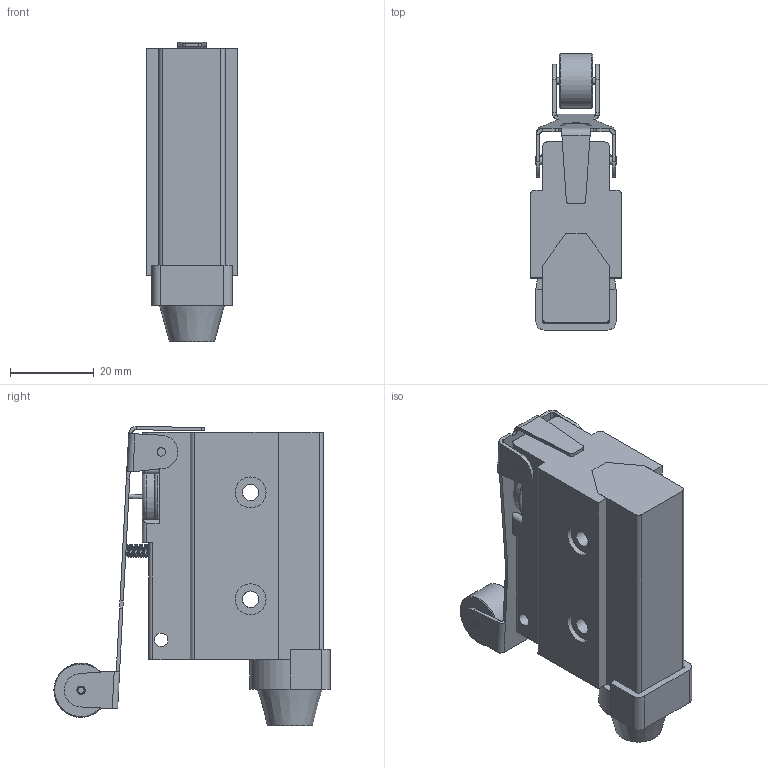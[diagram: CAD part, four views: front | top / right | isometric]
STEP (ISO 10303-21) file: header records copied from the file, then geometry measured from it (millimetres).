
FILE_DESCRIPTION (( 'STEP AP214' ), '1' );
FILE_NAME ('3D 斁麧錪 MTB4-MS7126.STEP', '2020-07-01T14:28:25', ( '' ), ( '' ), 'SwSTEP 2.0', 'SolidWorks 2015', '' );
FILE_SCHEMA (( 'AUTOMOTIVE_DESIGN' ));
Length unit declared in the file: millimetre
Products named in the file (8): 膰薧槻鴀 MTB4-MS7126; Øàéáà_ïîäêëàäî÷íàÿ_00; ñêîáà êîíöåâèêà_00; 3D 斁麧錪 MTB4-MS7126; 扻錼鼨膰_膰薧槻鴀趌00; 瀔鵵鴈趌00; 鎗鵻罻_19,2_00; 鎗鵻罻_11,2_00
Assembly tree (7 placements, depth 2):
  3D 斁麧錪 MTB4-MS7126
    膰薧槻鴀 MTB4-MS7126
    Øàéáà_ïîäêëàäî÷íàÿ_00
    ñêîáà êîíöåâèêà_00
    扻錼鼨膰_膰薧槻鴀趌00
    鎗鵻罻_19,2_00
    鎗鵻罻_11,2_00
    瀔鵵鴈趌00
Bounding box: 21.71 x 66.16 x 71.67 mm (x, y, z)
Volume: 48004.8 mm3; surface area: 18317.3 mm2
Topology: 9 solids, 9 shells, 480 faces, 1251 edges, 826 vertices
Faces by surface type: plane 310, cylinder 82, bspline 82, cone 3, torus 3
Full cylindrical faces by diameter (mm): 0.8 x1, 1 x1, 1.5 x3, 2 x7, 2.5 x1, 3.2 x2, 4 x6, 7.4 x4, 13 x1, 15 x1
Entity records: 24122 total; most frequent: CARTESIAN_POINT 8557, ORIENTED_EDGE 2414, DIRECTION 1989, EDGE_CURVE 1207, VECTOR 859, LINE 859, VERTEX_POINT 816, EDGE_LOOP 581
